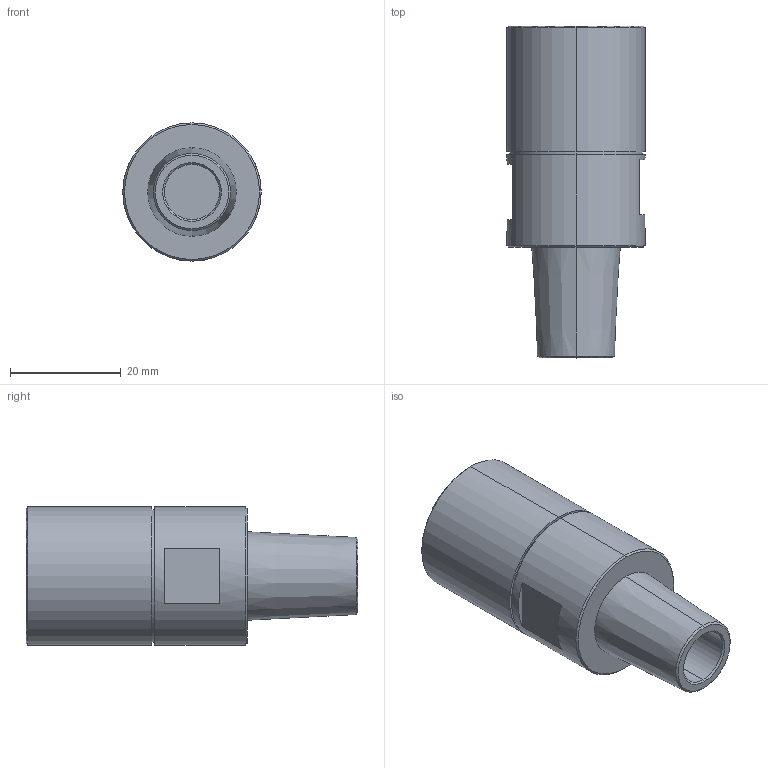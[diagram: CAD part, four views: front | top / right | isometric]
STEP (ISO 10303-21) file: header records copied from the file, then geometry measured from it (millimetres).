
FILE_DESCRIPTION (( 'STEP AP203' ), '1' );
FILE_NAME ('SW-PB-D10-1.STEP', '2022-06-14T04:32:26', ( '' ), ( '' ), 'SwSTEP 2.0', 'SolidWorks 2015', '' );
FILE_SCHEMA (( 'CONFIG_CONTROL_DESIGN' ));
Length unit declared in the file: millimetre
Products named in the file (2): SW-PB-D10-1
Bounding box: 25 x 60 x 25 mm (x, y, z)
Volume: 20084.9 mm3; surface area: 6233.1 mm2
Topology: 1 solids, 1 shells, 30 faces, 58 edges, 36 vertices
Faces by surface type: plane 12, cone 10, cylinder 8
Entity records: 985 total; most frequent: CARTESIAN_POINT 198, DIRECTION 146, ORIENTED_EDGE 116, AXIS2_PLACEMENT_3D 60, EDGE_CURVE 58, EDGE_LOOP 36, VERTEX_POINT 36, FACE_OUTER_BOUND 30
